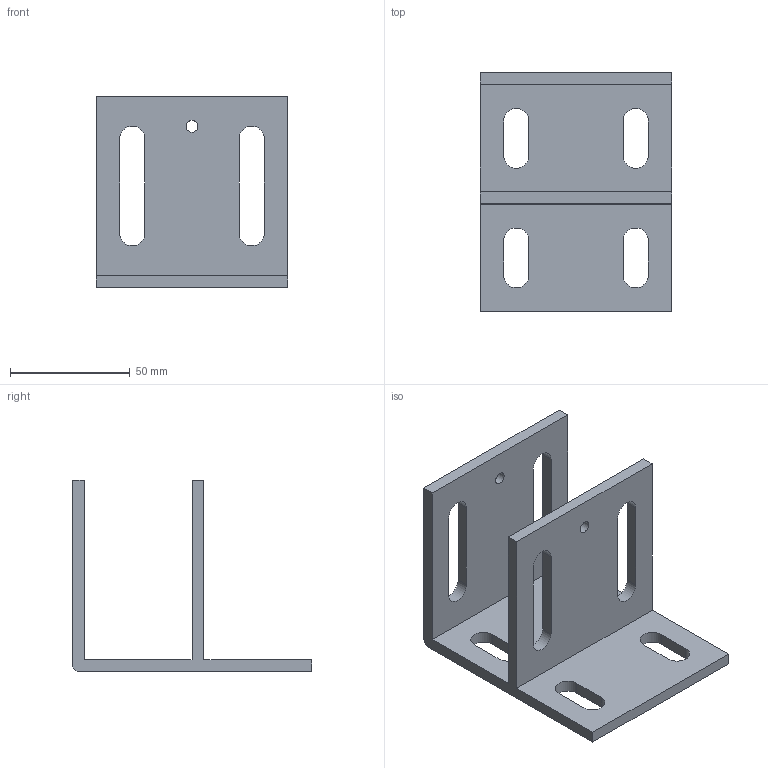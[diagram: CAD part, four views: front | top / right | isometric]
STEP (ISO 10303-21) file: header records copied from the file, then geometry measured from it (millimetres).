
FILE_DESCRIPTION(/* description */ (''),/* implementation_level */ '2;1');
FILE_NAME(/* name */ 'GE-PHF.step',/* time_stamp */ '2025-12-16T17:28:53+03:00',/* author */ (''),/* organization */ (''),/* preprocessor_version */ 'ST-DEVELOPER v20.1',/* originating_system */ 'Autodesk Translation Framework v14.21.0.0',/* authorisation */ '');
FILE_SCHEMA (('AUTOMOTIVE_DESIGN { 1 0 10303 214 3 1 1 }'));
Length unit declared in the file: millimetre
Products named in the file (1): GE-PHF
Bounding box: 80 x 100 x 80 mm (x, y, z)
Volume: 84845.5 mm3; surface area: 40829.7 mm2
Topology: 1 solids, 1 shells, 47 faces, 135 edges, 90 vertices
Faces by surface type: plane 28, cylinder 19
Full cylindrical faces by diameter (mm): 5 x2
Entity records: 1620 total; most frequent: CARTESIAN_POINT 273, ORIENTED_EDGE 270, DIRECTION 269, EDGE_CURVE 135, LINE 97, VECTOR 97, VERTEX_POINT 90, AXIS2_PLACEMENT_3D 86
